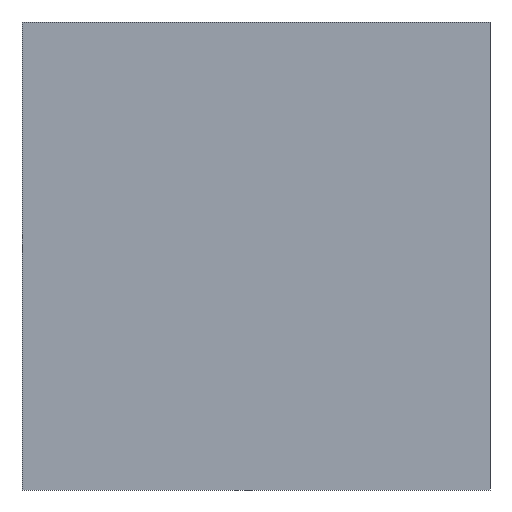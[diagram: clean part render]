
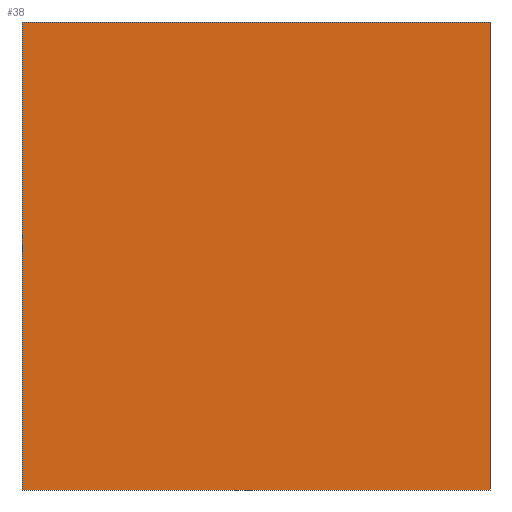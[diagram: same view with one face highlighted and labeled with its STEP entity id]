
A CAD part, front view. The second image highlights one B-rep face of the part: STEP entity #38.
In plain terms, the highlighted planar face has unit normal (0, -1, 0).
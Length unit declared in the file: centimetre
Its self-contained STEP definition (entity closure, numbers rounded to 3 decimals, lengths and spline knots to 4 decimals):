
#3 = ORIENTED_EDGE ( 'NONE', *, *, #252, .F. ) ;
#12 = AXIS2_PLACEMENT_3D ( 'NONE', #221, #229, #17 ) ;
#17 = DIRECTION ( 'NONE',  ( 0., 0., 1. ) ) ;
#24 = CARTESIAN_POINT ( 'NONE',  ( 0., 0., 0. ) ) ;
#25 = ORIENTED_EDGE ( 'NONE', *, *, #165, .F. ) ;
#29 = EDGE_LOOP ( 'NONE', ( #235, #25, #3, #57 ) ) ;
#31 = CARTESIAN_POINT ( 'NONE',  ( 1000., 0., 1000. ) ) ;
#38 = ADVANCED_FACE ( 'NONE', ( #281 ), #202, .F. ) ;
#51 = DIRECTION ( 'NONE',  ( 1., 0., 0. ) ) ;
#57 = ORIENTED_EDGE ( 'NONE', *, *, #272, .T. ) ;
#64 = DIRECTION ( 'NONE',  ( 1., 0., 0. ) ) ;
#82 = CARTESIAN_POINT ( 'NONE',  ( 1000., 0., 0. ) ) ;
#92 = CARTESIAN_POINT ( 'NONE',  ( 0., 0., 0. ) ) ;
#120 = VECTOR ( 'NONE', #288, 100. ) ;
#129 = VECTOR ( 'NONE', #248, 100. ) ;
#159 = CARTESIAN_POINT ( 'NONE',  ( 1000., 0., 1000. ) ) ;
#165 = EDGE_CURVE ( 'NONE', #340, #199, #236, .T. ) ;
#184 = LINE ( 'NONE', #24, #327 ) ;
#191 = EDGE_CURVE ( 'NONE', #287, #199, #184, .T. ) ;
#196 = VECTOR ( 'NONE', #51, 100. ) ;
#198 = CARTESIAN_POINT ( 'NONE',  ( 0., 0., 1000. ) ) ;
#199 = VERTEX_POINT ( 'NONE', #82 ) ;
#202 = PLANE ( 'NONE',  #12 ) ;
#209 = CARTESIAN_POINT ( 'NONE',  ( 0., 0., 1000. ) ) ;
#221 = CARTESIAN_POINT ( 'NONE',  ( 0., 0., 1000. ) ) ;
#229 = DIRECTION ( 'NONE',  ( 0., 1., 0. ) ) ;
#235 = ORIENTED_EDGE ( 'NONE', *, *, #191, .T. ) ;
#236 = LINE ( 'NONE', #159, #129 ) ;
#248 = DIRECTION ( 'NONE',  ( 0., 0., -1. ) ) ;
#252 = EDGE_CURVE ( 'NONE', #269, #340, #284, .T. ) ;
#260 = CARTESIAN_POINT ( 'NONE',  ( 0., 0., 1000. ) ) ;
#269 = VERTEX_POINT ( 'NONE', #209 ) ;
#272 = EDGE_CURVE ( 'NONE', #269, #287, #314, .T. ) ;
#281 = FACE_OUTER_BOUND ( 'NONE', #29, .T. ) ;
#284 = LINE ( 'NONE', #198, #196 ) ;
#287 = VERTEX_POINT ( 'NONE', #92 ) ;
#288 = DIRECTION ( 'NONE',  ( 0., 0., -1. ) ) ;
#314 = LINE ( 'NONE', #260, #120 ) ;
#327 = VECTOR ( 'NONE', #64, 100. ) ;
#340 = VERTEX_POINT ( 'NONE', #31 ) ;
